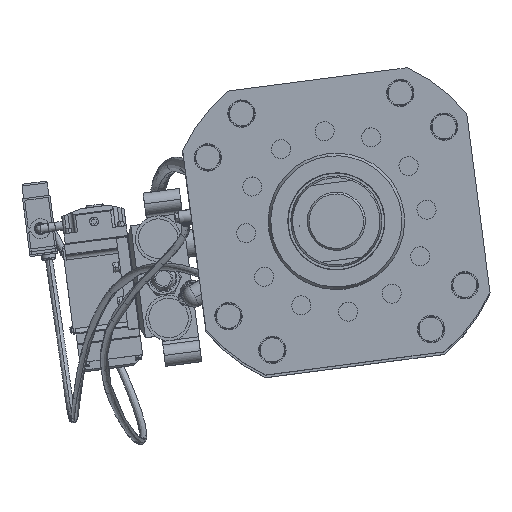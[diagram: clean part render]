
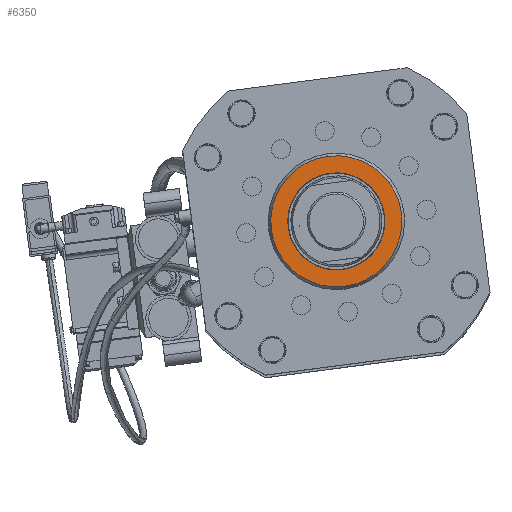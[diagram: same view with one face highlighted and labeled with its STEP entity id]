
A CAD part, top view. The second image highlights one B-rep face of the part: STEP entity #6350.
In plain terms, the highlighted planar face has unit normal (0, 0, 1).
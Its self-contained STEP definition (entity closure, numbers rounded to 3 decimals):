
#538 = CARTESIAN_POINT ( 'NONE',  ( 264.238, 32.564, 229.44 ) ) ;
#2130 = CIRCLE ( 'NONE', #2725, 53.402 ) ;
#2725 = AXIS2_PLACEMENT_3D ( 'NONE', #30695, #11784, #28345 ) ;
#5081 = CARTESIAN_POINT ( 'NONE',  ( 264.238, 32.564, 229.44 ) ) ;
#6350 = ADVANCED_FACE ( 'NONE', ( #32772, #27547 ), #33303, .T. ) ;
#6476 = DIRECTION ( 'NONE',  ( 0., 0., 1. ) ) ;
#6776 = CARTESIAN_POINT ( 'NONE',  ( 257.329, 85.517, 229.44 ) ) ;
#10027 = EDGE_CURVE ( 'NONE', #16187, #34788, #21963, .T. ) ;
#10611 = ORIENTED_EDGE ( 'NONE', *, *, #25676, .T. ) ;
#11453 = VERTEX_POINT ( 'NONE', #25662 ) ;
#11517 = DIRECTION ( 'NONE',  ( 0., 0., 1. ) ) ;
#11784 = DIRECTION ( 'NONE',  ( 0., 0., 1. ) ) ;
#12604 = ORIENTED_EDGE ( 'NONE', *, *, #10027, .F. ) ;
#14392 = CARTESIAN_POINT ( 'NONE',  ( 264.238, 32.564, 229.44 ) ) ;
#15865 = DIRECTION ( 'NONE',  ( 0., 0., 1. ) ) ;
#16030 = AXIS2_PLACEMENT_3D ( 'NONE', #5081, #15865, #23970 ) ;
#16187 = VERTEX_POINT ( 'NONE', #17265 ) ;
#16590 = AXIS2_PLACEMENT_3D ( 'NONE', #538, #11517, #22488 ) ;
#17265 = CARTESIAN_POINT ( 'NONE',  ( 271.148, -20.389, 229.44 ) ) ;
#17648 = ORIENTED_EDGE ( 'NONE', *, *, #24130, .F. ) ;
#19546 = ORIENTED_EDGE ( 'NONE', *, *, #26332, .T. ) ;
#20117 = CARTESIAN_POINT ( 'NONE',  ( 264.238, 32.564, 229.44 ) ) ;
#20623 = CIRCLE ( 'NONE', #16030, 72.113 ) ;
#21963 = CIRCLE ( 'NONE', #25976, 53.402 ) ;
#22488 = DIRECTION ( 'NONE',  ( 0.129, -0.992, 0. ) ) ;
#23439 = AXIS2_PLACEMENT_3D ( 'NONE', #14392, #6476, #28075 ) ;
#23970 = DIRECTION ( 'NONE',  ( 0.129, -0.992, 0. ) ) ;
#24130 = EDGE_CURVE ( 'NONE', #34788, #16187, #2130, .T. ) ;
#25210 = CIRCLE ( 'NONE', #16590, 72.113 ) ;
#25502 = EDGE_LOOP ( 'NONE', ( #12604, #17648 ) ) ;
#25662 = CARTESIAN_POINT ( 'NONE',  ( 273.569, -38.943, 229.44 ) ) ;
#25676 = EDGE_CURVE ( 'NONE', #11453, #32317, #25210, .T. ) ;
#25976 = AXIS2_PLACEMENT_3D ( 'NONE', #20117, #33979, #30922 ) ;
#26332 = EDGE_CURVE ( 'NONE', #32317, #11453, #20623, .T. ) ;
#26623 = EDGE_LOOP ( 'NONE', ( #19546, #10611 ) ) ;
#27547 = FACE_OUTER_BOUND ( 'NONE', #26623, .T. ) ;
#28075 = DIRECTION ( 'NONE',  ( 0.129, -0.992, 0. ) ) ;
#28345 = DIRECTION ( 'NONE',  ( 0.129, -0.992, 0. ) ) ;
#30494 = CARTESIAN_POINT ( 'NONE',  ( 254.908, 104.071, 229.44 ) ) ;
#30695 = CARTESIAN_POINT ( 'NONE',  ( 264.238, 32.564, 229.44 ) ) ;
#30922 = DIRECTION ( 'NONE',  ( 0.129, -0.992, 0. ) ) ;
#32317 = VERTEX_POINT ( 'NONE', #30494 ) ;
#32772 = FACE_BOUND ( 'NONE', #25502, .T. ) ;
#33303 = PLANE ( 'NONE',  #23439 ) ;
#33979 = DIRECTION ( 'NONE',  ( 0., 0., 1. ) ) ;
#34788 = VERTEX_POINT ( 'NONE', #6776 ) ;
